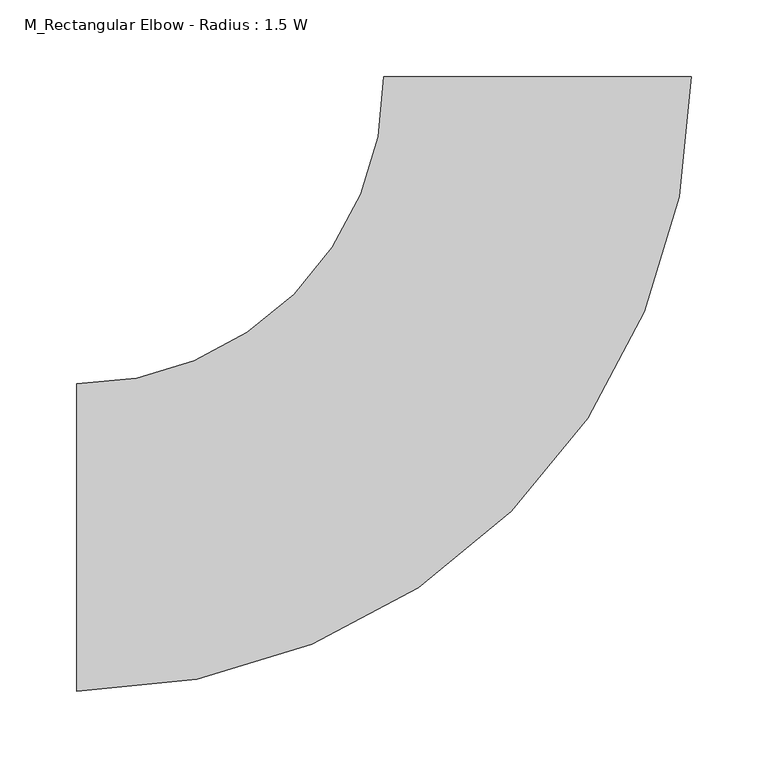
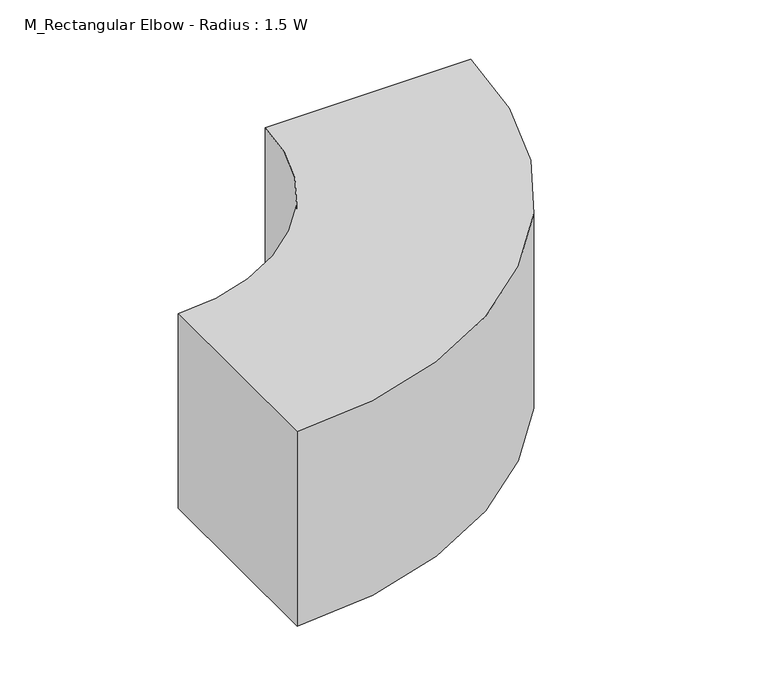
"""IFC4 building model written with IfcOpenShell, lengths in millimetres: duct fitting geometry, M_Rectangular Elbow - Radius : 1.5 W."""

from ifc_helpers import new_model, si_unit, point, frame, frame_2d, origin, place, context, project, spatial, polyline, circle_curve, trimmed, segment, composite_curve, outline, extrude, source, transform, mapped, element, save


def m_rectangular_elbow_radius_1_5_w_0e42eef0(model_context):
    return source(origin(), model_context, "Body", "SweptSolid", [
        extrude(outline(composite_curve([segment(trimmed(circle_curve(frame_2d((-300.0, 300.0)), 400.0), [point((100.0, 300.0))], [point((-300.0, -100.0))], False, "CARTESIAN"), True, "CONTINUOUS"), segment(polyline([(-300.0, -100.0), (-300.0, 100.0)]), True, "CONTINUOUS"), segment(trimmed(circle_curve(frame_2d((-300.0, 300.0)), 200.0), [point((-300.0, 100.0))], [point((-100.0, 300.0))], True, "CARTESIAN"), True, "CONTINUOUS"), segment(polyline([(-100.0, 300.0), (100.0, 300.0)]), True, "CONTINUOUS")], self_intersect=False)), frame((0.0, 0.0, -100.0), z_axis=(0.0, 0.0, 1.0), x_axis=(1.0, 0.0, 0.0)), (0.0, 0.0, 1.0), 200.0),
        extrude(outline(composite_curve([segment(trimmed(circle_curve(frame_2d((-300.0, 300.0)), 400.0), [point((100.0, 300.0))], [point((-300.0, -100.0))], False, "CARTESIAN"), True, "CONTINUOUS"), segment(polyline([(-300.0, -100.0), (-300.0, 100.0)]), True, "CONTINUOUS"), segment(trimmed(circle_curve(frame_2d((-300.0, 300.0)), 200.0), [point((-300.0, 100.0))], [point((-100.0, 300.0))], True, "CARTESIAN"), True, "CONTINUOUS"), segment(polyline([(-100.0, 300.0), (100.0, 300.0)]), True, "CONTINUOUS")], self_intersect=False)), frame((0.0, 0.0, -100.0), z_axis=(0.0, 0.0, 1.0), x_axis=(1.0, 0.0, 0.0)), (0.0, 0.0, 1.0), 200.0),
        extrude(outline(composite_curve([segment(trimmed(circle_curve(frame_2d((-300.0, 300.0)), 400.0), [point((100.0, 300.0))], [point((-300.0, -100.0))], False, "CARTESIAN"), True, "CONTINUOUS"), segment(polyline([(-300.0, -100.0), (-300.0, 100.0)]), True, "CONTINUOUS"), segment(trimmed(circle_curve(frame_2d((-300.0, 300.0)), 200.0), [point((-300.0, 100.0))], [point((-100.0, 300.0))], True, "CARTESIAN"), True, "CONTINUOUS"), segment(polyline([(-100.0, 300.0), (100.0, 300.0)]), True, "CONTINUOUS")], self_intersect=False)), frame((0.0, 0.0, -100.0), z_axis=(0.0, 0.0, 1.0), x_axis=(1.0, 0.0, 0.0)), (0.0, 0.0, 1.0), 200.0),
    ])


if __name__ == "__main__":
    model = new_model("IFC4")
    model_context = context("Model", 3, world=origin())
    ifc_project = project(units=[si_unit("LENGTHUNIT", "METRE", prefix="MILLI")], contexts=[model_context])
    site = spatial("IfcSite", under=ifc_project)
    building = spatial("IfcBuilding", under=site)
    placement = place(None, origin())
    m_rectangular_elbow_radius_1_5_w_shape = m_rectangular_elbow_radius_1_5_w_0e42eef0(model_context)
    element("IfcDuctFitting", 1, ObjectType="M_Rectangular Elbow - Radius : 1.5 W", at=placement, inside=building, context=model_context, shape_type="MappedRepresentation", body=[
        mapped(m_rectangular_elbow_radius_1_5_w_shape, transform((0.0, 0.0, 0.0), x_axis=(1.0, 0.0, 0.0), y_axis=(0.0, 1.0, 0.0), z_axis=(0.0, 0.0, 1.0))),
    ])
    save(model, "model.ifc")
